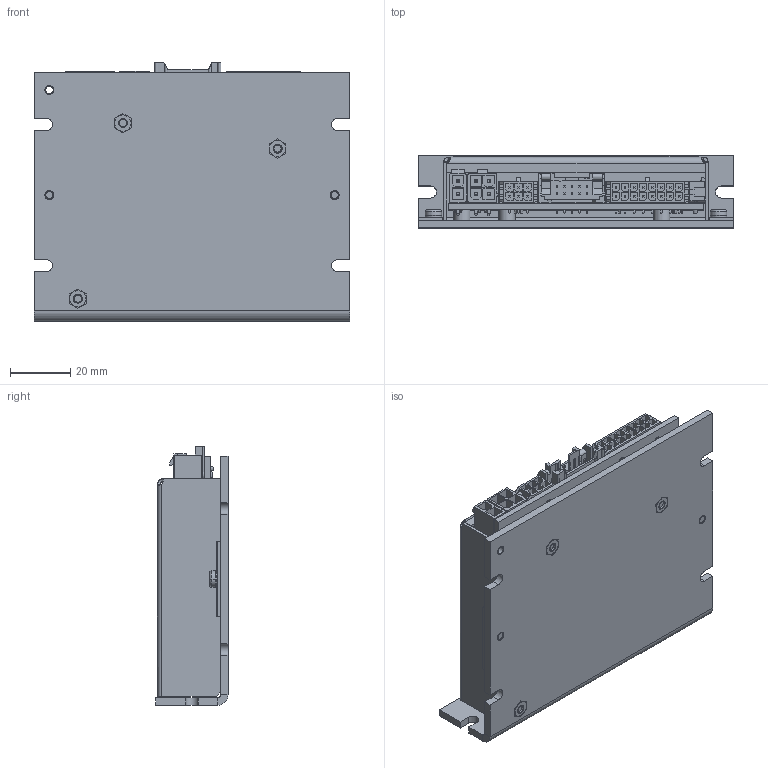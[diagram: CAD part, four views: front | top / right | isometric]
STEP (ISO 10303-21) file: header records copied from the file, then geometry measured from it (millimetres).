
FILE_DESCRIPTION((''),'2;1');
FILE_NAME('378308_EPOS2_24_5_ASM','2012-10-31T',('johannes'),(''),'PRO/ENGINEER BY PARAMETRIC TECHNOLOGY CORPORATION, 2010330','PRO/ENGINEER BY PARAMETRIC TECHNOLOGY CORPORATION, 2010330','');
FILE_SCHEMA(('CONFIG_CONTROL_DESIGN'));
Products named in the file (25): HOUSING_BASEPLATE_EPOS2_24_5; PEM-SO-3_5M3X6_A2A; BOARD_EPOS2_24_5; M3X8; MOLEX_818472; MOLEX_809744; MOLEX_790847; TYCO_V23535; MOLEX_484403; MOLEX_4302504000; USB_MINI_B; HOUSING_COVER_EPOS2_24_5; TDP08H1SB1R; M3X4; TDP02H1SB1R; SILKSCREEN_BASE_82X65; SILKSCREEN_378308_TEXT1; SILKSCREEN_378308_LOGO; SILKSCREEN_MAXON_LOGO_27X3_2; SILKSCREEN_378308_ASM; LED_BASE; LED_GREEN; LED_RED; STATUS_INDICATOR_LED_ASM; 378308_EPOS2_24_5_ASM
Assembly tree (32 placements, depth 3):
  378308_EPOS2_24_5_ASM
    HOUSING_BASEPLATE_EPOS2_24_5
    PEM-SO-3_5M3X6_A2A  x3
    BOARD_EPOS2_24_5
    M3X8  x3
    MOLEX_818472
    MOLEX_809744
    MOLEX_790847  x2
    TYCO_V23535
    MOLEX_484403
    MOLEX_4302504000  x2
    USB_MINI_B
    HOUSING_COVER_EPOS2_24_5
    TDP08H1SB1R
    M3X4  x2
    TDP02H1SB1R
    SILKSCREEN_378308_ASM
      SILKSCREEN_BASE_82X65
      SILKSCREEN_378308_TEXT1
      SILKSCREEN_378308_LOGO
      SILKSCREEN_MAXON_LOGO_27X3_2
    STATUS_INDICATOR_LED_ASM
      LED_BASE  x2
      LED_GREEN
      LED_RED
Bounding box: 105 x 24 x 86.1 mm (x, y, z)
Volume: 56355.1 mm3; surface area: 91302.9 mm2
Topology: 101 solids, 112 shells, 8312 faces, 22907 edges, 15007 vertices
Faces by surface type: plane 7610, cylinder 596, bspline 44, cone 32, torus 20, sphere 10
Entity records: 246632 total; most frequent: CARTESIAN_POINT 46441, ORIENTED_EDGE 43034, DIRECTION 37917, EDGE_CURVE 21529, VECTOR 20375, LINE 20375, VERTEX_POINT 14129, AXIS2_PLACEMENT_3D 8771
